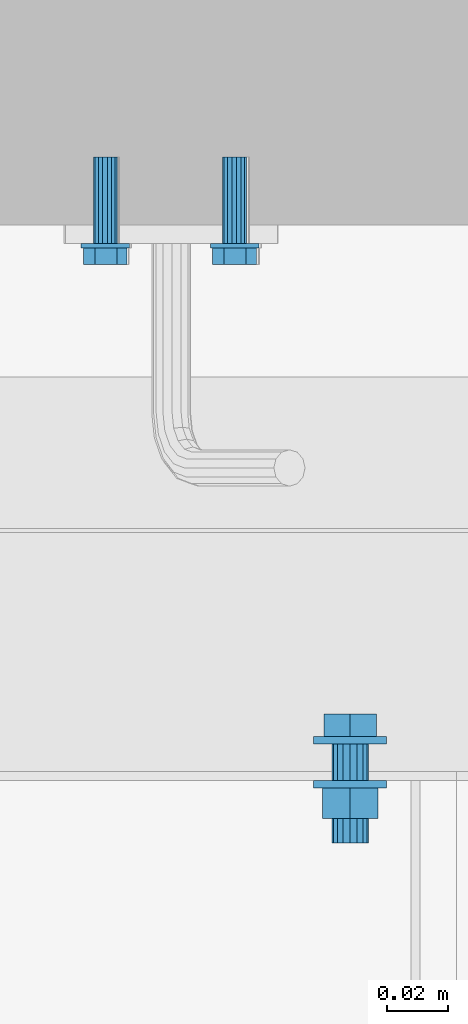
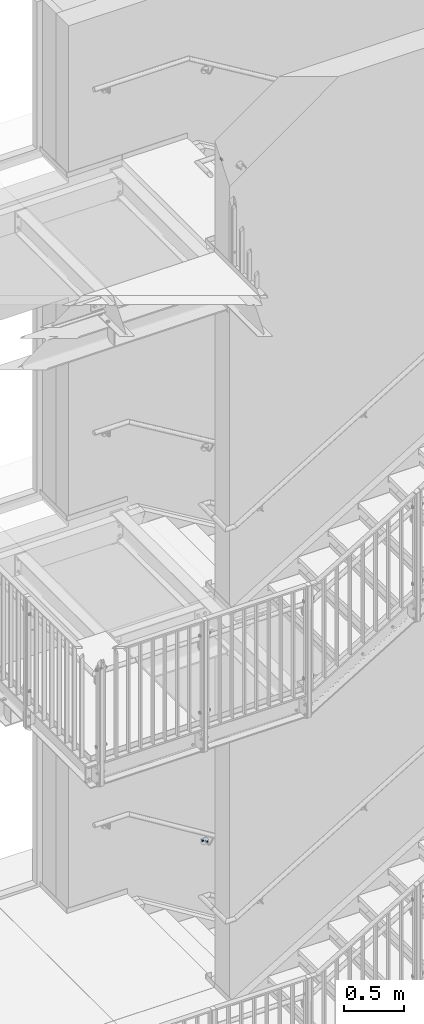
# One storey, part 259 of 410: 2 mechanical fasteners.
"""IFC2X3 building model written with IfcOpenShell, lengths in millimetres."""

from ifc_helpers import new_model, entity, si_unit, converted_unit, origin_with_axes, place, context, project, spatial, faceted_brep, element, save


model = new_model("IFC2X3")

# Units and contexts
model_context = context("Model", 3, precision=1e-09, world=origin_with_axes())
ifc_project = project(units=[si_unit("LENGTHUNIT", "METRE", prefix="MILLI"), si_unit("AREAUNIT", "SQUARE_METRE"), si_unit("VOLUMEUNIT", "CUBIC_METRE"), converted_unit("PLANEANGLEUNIT", "DEGREE", entity("IfcPlaneAngleMeasure", 0.01745329), si_unit("PLANEANGLEUNIT", "RADIAN"), dimensions=[0, 0, 0, 0, 0, 0, 0])], contexts=[model_context])

# Site, building, storey
site_placement = place(None, origin_with_axes())
site = spatial("IfcSite", under=ifc_project, at=site_placement, Name="mKR Teilneubau & Sanierung BA1 - Ostfildern", CompositionType="ELEMENT")
building_placement = place(site_placement, origin_with_axes())
building = spatial("IfcBuilding", under=site, at=building_placement, Name="Struktur 1", CompositionType="ELEMENT")
storey_placement = place(building_placement, origin_with_axes())
storey = spatial("IfcBuildingStorey", under=building, at=storey_placement, Name="Default Storey", CompositionType="ELEMENT", Elevation=0.0)

# Mechanical fasteners
mechanical_fastener_1_placement = place(None, origin_with_axes())
element("IfcMechanicalFastener", 1, at=mechanical_fastener_1_placement, inside=storey, ObjectType="-", NominalDiameter=8.0, NominalLength=30.0, context=model_context, shape_type="Brep", body=[
    faceted_brep([(-914.891471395, 18612.400061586, 224.936654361), (-914.891471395, 18614.000061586, 224.936654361), (-915.579719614, 18614.000061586, 223.527470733), (-915.579719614, 18612.400061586, 223.527470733), (-915.979825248, 18614.000061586, 222.011093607), (-915.979825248, 18612.400061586, 222.011093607), (-916.076412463, 18614.000061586, 220.445796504), (-916.076412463, 18612.400061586, 220.445796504), (-915.865769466, 18614.000061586, 218.891732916), (-915.865769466, 18612.400061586, 218.891732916), (-915.355991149, 18614.000061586, 217.408624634), (-915.355991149, 18612.400061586, 217.408624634), (-914.566668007, 18614.000061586, 216.053466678), (-914.566668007, 18612.400061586, 216.053466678), (-913.528133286, 18614.000061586, 214.878337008), (-913.528133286, 18612.400061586, 214.878337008), (-912.280297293, 18614.000061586, 213.928395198), (-912.280297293, 18612.400061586, 213.928395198), (-910.871113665, 18614.000061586, 213.240146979), (-910.871113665, 18612.400061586, 213.240146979), (-909.354736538, 18614.000061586, 212.840041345), (-909.354736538, 18612.400061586, 212.840041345), (-907.789439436, 18614.000061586, 212.74345413), (-907.789439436, 18612.400061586, 212.74345413), (-906.235375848, 18614.000061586, 212.954097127), (-906.235375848, 18612.400061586, 212.954097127), (-904.752267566, 18614.000061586, 213.463875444), (-904.752267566, 18612.400061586, 213.463875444), (-903.39710961, 18614.000061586, 214.253198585), (-903.39710961, 18612.400061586, 214.253198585), (-902.22197994, 18614.000061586, 215.291733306), (-902.22197994, 18612.400061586, 215.291733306), (-901.27203813, 18614.000061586, 216.5395693), (-901.27203813, 18612.400061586, 216.5395693), (-900.583789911, 18614.000061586, 217.948752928), (-900.583789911, 18612.400061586, 217.948752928), (-900.183684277, 18614.000061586, 219.465130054), (-900.183684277, 18612.400061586, 219.465130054), (-900.087097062, 18614.000061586, 221.030427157), (-900.087097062, 18612.400061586, 221.030427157), (-900.297740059, 18614.000061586, 222.584490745), (-900.297740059, 18612.400061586, 222.584490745), (-900.807518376, 18614.000061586, 224.067599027), (-900.807518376, 18612.400061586, 224.067599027), (-901.596841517, 18614.000061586, 225.422756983), (-901.596841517, 18612.400061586, 225.422756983), (-902.635376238, 18614.000061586, 226.597886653), (-902.635376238, 18612.400061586, 226.597886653), (-903.883212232, 18614.000061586, 227.547828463), (-903.883212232, 18612.400061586, 227.547828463), (-905.29239586, 18614.000061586, 228.236076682), (-905.29239586, 18612.400061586, 228.236076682), (-906.808772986, 18614.000061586, 228.636182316), (-906.808772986, 18612.400061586, 228.636182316), (-908.374070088, 18614.000061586, 228.732769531), (-908.374070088, 18612.400061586, 228.732769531), (-909.928133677, 18614.000061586, 228.522126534), (-909.928133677, 18612.400061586, 228.522126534), (-911.411241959, 18614.000061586, 228.012348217), (-911.411241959, 18612.400061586, 228.012348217), (-912.766399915, 18614.000061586, 227.223025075), (-912.766399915, 18612.400061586, 227.223025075), (-913.941529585, 18614.000061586, 226.184490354), (-913.941529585, 18612.400061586, 226.184490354)], [[[0, 1, 2, 3]], [[3, 2, 4, 5]], [[5, 4, 6, 7]], [[7, 6, 8, 9]], [[9, 8, 10, 11]], [[11, 10, 12, 13]], [[13, 12, 14, 15]], [[15, 14, 16, 17]], [[17, 16, 18, 19]], [[19, 18, 20, 21]], [[21, 20, 22, 23]], [[23, 22, 24, 25]], [[25, 24, 26, 27]], [[27, 26, 28, 29]], [[29, 28, 30, 31]], [[31, 30, 32, 33]], [[33, 32, 34, 35]], [[35, 34, 36, 37]], [[37, 36, 38, 39]], [[39, 38, 40, 41]], [[41, 40, 42, 43]], [[43, 42, 44, 45]], [[45, 44, 46, 47]], [[47, 46, 48, 49]], [[49, 48, 50, 51]], [[51, 50, 52, 53]], [[53, 52, 54, 55]], [[55, 54, 56, 57]], [[57, 56, 58, 59]], [[59, 58, 60, 61]], [[61, 60, 62, 63]], [[63, 62, 1, 0]], [[0, 3, 5, 7, 9, 11, 13, 15, 17, 19, 21, 23, 25, 27, 29, 31, 33, 35, 37, 39, 41, 43, 45, 47, 49, 51, 53, 55, 57, 59, 61, 63]], [[1, 62, 60, 58, 56, 54, 52, 50, 48, 46, 44, 42, 40, 38, 36, 34, 32, 30, 28, 26, 24, 22, 20, 18, 16, 14, 12, 10, 8, 6, 4, 2]]]),
    faceted_brep([(-957.452200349, 18612.400061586, 251.177545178), (-957.452200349, 18614.000061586, 251.177545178), (-958.140448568, 18614.000061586, 249.76836155), (-958.140448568, 18612.400061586, 249.76836155), (-958.540554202, 18614.000061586, 248.251984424), (-958.540554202, 18612.400061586, 248.251984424), (-958.637141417, 18614.000061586, 246.686687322), (-958.637141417, 18612.400061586, 246.686687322), (-958.42649842, 18614.000061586, 245.132623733), (-958.42649842, 18612.400061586, 245.132623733), (-957.916720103, 18614.000061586, 243.649515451), (-957.916720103, 18612.400061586, 243.649515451), (-957.127396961, 18614.000061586, 242.294357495), (-957.127396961, 18612.400061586, 242.294357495), (-956.088862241, 18614.000061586, 241.119227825), (-956.088862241, 18612.400061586, 241.119227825), (-954.841026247, 18614.000061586, 240.169286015), (-954.841026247, 18612.400061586, 240.169286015), (-953.431842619, 18614.000061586, 239.481037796), (-953.431842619, 18612.400061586, 239.481037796), (-951.915465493, 18614.000061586, 239.080932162), (-951.915465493, 18612.400061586, 239.080932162), (-950.35016839, 18614.000061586, 238.984344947), (-950.35016839, 18612.400061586, 238.984344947), (-948.796104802, 18614.000061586, 239.194987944), (-948.796104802, 18612.400061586, 239.194987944), (-947.31299652, 18614.000061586, 239.704766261), (-947.31299652, 18612.400061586, 239.704766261), (-945.957838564, 18614.000061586, 240.494089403), (-945.957838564, 18612.400061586, 240.494089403), (-944.782708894, 18614.000061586, 241.532624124), (-944.782708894, 18612.400061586, 241.532624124), (-943.832767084, 18614.000061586, 242.780460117), (-943.832767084, 18612.400061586, 242.780460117), (-943.144518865, 18614.000061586, 244.189643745), (-943.144518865, 18612.400061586, 244.189643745), (-942.744413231, 18614.000061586, 245.706020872), (-942.744413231, 18612.400061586, 245.706020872), (-942.647826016, 18614.000061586, 247.271317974), (-942.647826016, 18612.400061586, 247.271317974), (-942.858469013, 18614.000061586, 248.825381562), (-942.858469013, 18612.400061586, 248.825381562), (-943.36824733, 18614.000061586, 250.308489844), (-943.36824733, 18612.400061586, 250.308489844), (-944.157570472, 18614.000061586, 251.6636478), (-944.157570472, 18612.400061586, 251.6636478), (-945.196105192, 18614.000061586, 252.83877747), (-945.196105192, 18612.400061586, 252.83877747), (-946.443941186, 18614.000061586, 253.78871928), (-946.443941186, 18612.400061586, 253.78871928), (-947.853124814, 18614.000061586, 254.476967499), (-947.853124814, 18612.400061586, 254.476967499), (-949.36950194, 18614.000061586, 254.877073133), (-949.36950194, 18612.400061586, 254.877073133), (-950.934799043, 18614.000061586, 254.973660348), (-950.934799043, 18612.400061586, 254.973660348), (-952.488862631, 18614.000061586, 254.763017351), (-952.488862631, 18612.400061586, 254.763017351), (-953.971970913, 18614.000061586, 254.253239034), (-953.971970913, 18612.400061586, 254.253239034), (-955.327128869, 18614.000061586, 253.463915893), (-955.327128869, 18612.400061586, 253.463915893), (-956.502258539, 18614.000061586, 252.425381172), (-956.502258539, 18612.400061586, 252.425381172)], [[[0, 1, 2, 3]], [[3, 2, 4, 5]], [[5, 4, 6, 7]], [[7, 6, 8, 9]], [[9, 8, 10, 11]], [[11, 10, 12, 13]], [[13, 12, 14, 15]], [[15, 14, 16, 17]], [[17, 16, 18, 19]], [[19, 18, 20, 21]], [[21, 20, 22, 23]], [[23, 22, 24, 25]], [[25, 24, 26, 27]], [[27, 26, 28, 29]], [[29, 28, 30, 31]], [[31, 30, 32, 33]], [[33, 32, 34, 35]], [[35, 34, 36, 37]], [[37, 36, 38, 39]], [[39, 38, 40, 41]], [[41, 40, 42, 43]], [[43, 42, 44, 45]], [[45, 44, 46, 47]], [[47, 46, 48, 49]], [[49, 48, 50, 51]], [[51, 50, 52, 53]], [[53, 52, 54, 55]], [[55, 54, 56, 57]], [[57, 56, 58, 59]], [[59, 58, 60, 61]], [[61, 60, 62, 63]], [[63, 62, 1, 0]], [[0, 3, 5, 7, 9, 11, 13, 15, 17, 19, 21, 23, 25, 27, 29, 31, 33, 35, 37, 39, 41, 43, 45, 47, 49, 51, 53, 55, 57, 59, 61, 63]], [[1, 62, 60, 58, 56, 54, 52, 50, 48, 46, 44, 42, 40, 38, 36, 34, 32, 30, 28, 26, 24, 22, 20, 18, 16, 14, 12, 10, 8, 6, 4, 2]]]),
    faceted_brep([(-904.66819771, 18612.400061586, 214.410100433), (-904.66819771, 18607.100061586, 214.410100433), (-911.855194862, 18607.100061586, 214.617879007), (-911.855194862, 18612.400061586, 214.617879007), (-915.268751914, 18607.100061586, 220.945890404), (-915.268751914, 18612.400061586, 220.945890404), (-911.495311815, 18607.100061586, 227.066123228), (-911.495311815, 18612.400061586, 227.066123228), (-904.308314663, 18607.100061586, 226.858344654), (-904.308314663, 18612.400061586, 226.858344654), (-900.89475761, 18607.100061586, 220.530333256), (-900.89475761, 18612.400061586, 220.530333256)], [[[0, 1, 2, 3]], [[3, 2, 4, 5]], [[5, 4, 6, 7]], [[7, 6, 8, 9]], [[9, 8, 10, 11]], [[11, 10, 1, 0]], [[4, 2, 1, 10, 8, 6]], [[0, 3, 5, 7, 9, 11]]]),
    faceted_brep([(-947.228926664, 18612.400061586, 240.65099125), (-947.228926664, 18607.100061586, 240.65099125), (-954.415923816, 18607.100061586, 240.858769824), (-954.415923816, 18612.400061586, 240.858769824), (-957.829480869, 18607.100061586, 247.186781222), (-957.829480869, 18612.400061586, 247.186781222), (-954.056040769, 18607.100061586, 253.307014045), (-954.056040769, 18612.400061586, 253.307014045), (-946.869043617, 18607.100061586, 253.099235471), (-946.869043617, 18612.400061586, 253.099235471), (-943.455486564, 18607.100061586, 246.771224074), (-943.455486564, 18612.400061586, 246.771224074)], [[[0, 1, 2, 3]], [[3, 2, 4, 5]], [[5, 4, 6, 7]], [[7, 6, 8, 9]], [[9, 8, 10, 11]], [[11, 10, 1, 0]], [[4, 2, 1, 10, 8, 6]], [[0, 3, 5, 7, 9, 11]]]),
    faceted_brep([(-911.486613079, 18614.000061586, 222.837383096), (-911.486613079, 18624.000061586, 222.837383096), (-912.030790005, 18624.000061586, 221.374602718), (-912.030790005, 18614.000061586, 221.374602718), (-911.973762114, 18624.000061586, 219.814922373), (-911.973762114, 18614.000061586, 219.814922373), (-911.324211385, 18624.000061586, 218.395789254), (-911.324211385, 18614.000061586, 218.395789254), (-910.181026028, 18624.000061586, 217.333253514), (-910.181026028, 18614.000061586, 217.333253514), (-908.71824565, 18624.000061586, 216.789076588), (-908.71824565, 18614.000061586, 216.789076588), (-907.158565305, 18624.000061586, 216.846104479), (-907.158565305, 18614.000061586, 216.846104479), (-905.739432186, 18624.000061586, 217.495655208), (-905.739432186, 18614.000061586, 217.495655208), (-904.676896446, 18624.000061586, 218.638840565), (-904.676896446, 18614.000061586, 218.638840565), (-904.132719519, 18624.000061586, 220.101620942), (-904.132719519, 18614.000061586, 220.101620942), (-904.189747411, 18624.000061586, 221.661301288), (-904.189747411, 18614.000061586, 221.661301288), (-904.83929814, 18624.000061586, 223.080434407), (-904.83929814, 18614.000061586, 223.080434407), (-905.982483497, 18624.000061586, 224.142970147), (-905.982483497, 18614.000061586, 224.142970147), (-907.445263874, 18624.000061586, 224.687147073), (-907.445263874, 18614.000061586, 224.687147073), (-909.004944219, 18624.000061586, 224.630119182), (-909.004944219, 18614.000061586, 224.630119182), (-910.424077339, 18624.000061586, 223.980568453), (-910.424077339, 18614.000061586, 223.980568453)], [[[0, 1, 2, 3]], [[3, 2, 4, 5]], [[5, 4, 6, 7]], [[7, 6, 8, 9]], [[9, 8, 10, 11]], [[11, 10, 12, 13]], [[13, 12, 14, 15]], [[15, 14, 16, 17]], [[17, 16, 18, 19]], [[19, 18, 20, 21]], [[21, 20, 22, 23]], [[23, 22, 24, 25]], [[25, 24, 26, 27]], [[27, 26, 28, 29]], [[29, 28, 30, 31]], [[31, 30, 1, 0]], [[0, 3, 5, 7, 9, 11, 13, 15, 17, 19, 21, 23, 25, 27, 29, 31]], [[1, 30, 28, 26, 24, 22, 20, 18, 16, 14, 12, 10, 8, 6, 4, 2]]]),
    faceted_brep([(-954.047342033, 18614.000061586, 249.078273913), (-954.047342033, 18624.000061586, 249.078273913), (-954.591518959, 18624.000061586, 247.615493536), (-954.591518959, 18614.000061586, 247.615493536), (-954.534491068, 18624.000061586, 246.055813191), (-954.534491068, 18614.000061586, 246.055813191), (-953.884940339, 18624.000061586, 244.636680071), (-953.884940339, 18614.000061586, 244.636680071), (-952.741754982, 18624.000061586, 243.574144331), (-952.741754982, 18614.000061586, 243.574144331), (-951.278974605, 18624.000061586, 243.029967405), (-951.278974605, 18614.000061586, 243.029967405), (-949.719294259, 18624.000061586, 243.086995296), (-949.719294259, 18614.000061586, 243.086995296), (-948.30016114, 18624.000061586, 243.736546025), (-948.30016114, 18614.000061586, 243.736546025), (-947.2376254, 18624.000061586, 244.879731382), (-947.2376254, 18614.000061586, 244.879731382), (-946.693448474, 18624.000061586, 246.34251176), (-946.693448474, 18614.000061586, 246.34251176), (-946.750476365, 18624.000061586, 247.902192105), (-946.750476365, 18614.000061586, 247.902192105), (-947.400027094, 18624.000061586, 249.321325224), (-947.400027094, 18614.000061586, 249.321325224), (-948.543212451, 18624.000061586, 250.383860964), (-948.543212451, 18614.000061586, 250.383860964), (-950.005992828, 18624.000061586, 250.928037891), (-950.005992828, 18614.000061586, 250.928037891), (-951.565673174, 18624.000061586, 250.871009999), (-951.565673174, 18614.000061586, 250.871009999), (-952.984806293, 18624.000061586, 250.22145927), (-952.984806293, 18614.000061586, 250.22145927)], [[[0, 1, 2, 3]], [[3, 2, 4, 5]], [[5, 4, 6, 7]], [[7, 6, 8, 9]], [[9, 8, 10, 11]], [[11, 10, 12, 13]], [[13, 12, 14, 15]], [[15, 14, 16, 17]], [[17, 16, 18, 19]], [[19, 18, 20, 21]], [[21, 20, 22, 23]], [[23, 22, 24, 25]], [[25, 24, 26, 27]], [[27, 26, 28, 29]], [[29, 28, 30, 31]], [[31, 30, 1, 0]], [[0, 3, 5, 7, 9, 11, 13, 15, 17, 19, 21, 23, 25, 27, 29, 31]], [[1, 30, 28, 26, 24, 22, 20, 18, 16, 14, 12, 10, 8, 6, 4, 2]]]),
    faceted_brep([(-911.486613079, 18624.000061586, 222.837383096), (-911.486613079, 18642.400061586, 222.837383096), (-912.030790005, 18642.400061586, 221.374602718), (-912.030790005, 18624.000061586, 221.374602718), (-911.973762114, 18642.400061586, 219.814922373), (-911.973762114, 18624.000061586, 219.814922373), (-911.324211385, 18642.400061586, 218.395789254), (-911.324211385, 18624.000061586, 218.395789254), (-910.181026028, 18642.400061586, 217.333253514), (-910.181026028, 18624.000061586, 217.333253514), (-908.71824565, 18642.400061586, 216.789076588), (-908.71824565, 18624.000061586, 216.789076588), (-907.158565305, 18642.400061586, 216.846104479), (-907.158565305, 18624.000061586, 216.846104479), (-905.739432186, 18642.400061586, 217.495655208), (-905.739432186, 18624.000061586, 217.495655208), (-904.676896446, 18642.400061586, 218.638840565), (-904.676896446, 18624.000061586, 218.638840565), (-904.132719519, 18642.400061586, 220.101620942), (-904.132719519, 18624.000061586, 220.101620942), (-904.189747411, 18642.400061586, 221.661301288), (-904.189747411, 18624.000061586, 221.661301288), (-904.83929814, 18642.400061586, 223.080434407), (-904.83929814, 18624.000061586, 223.080434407), (-905.982483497, 18642.400061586, 224.142970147), (-905.982483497, 18624.000061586, 224.142970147), (-907.445263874, 18642.400061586, 224.687147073), (-907.445263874, 18624.000061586, 224.687147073), (-909.004944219, 18642.400061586, 224.630119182), (-909.004944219, 18624.000061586, 224.630119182), (-910.424077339, 18642.400061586, 223.980568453), (-910.424077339, 18624.000061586, 223.980568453)], [[[0, 1, 2, 3]], [[3, 2, 4, 5]], [[5, 4, 6, 7]], [[7, 6, 8, 9]], [[9, 8, 10, 11]], [[11, 10, 12, 13]], [[13, 12, 14, 15]], [[15, 14, 16, 17]], [[17, 16, 18, 19]], [[19, 18, 20, 21]], [[21, 20, 22, 23]], [[23, 22, 24, 25]], [[25, 24, 26, 27]], [[27, 26, 28, 29]], [[29, 28, 30, 31]], [[31, 30, 1, 0]], [[0, 3, 5, 7, 9, 11, 13, 15, 17, 19, 21, 23, 25, 27, 29, 31]], [[1, 30, 28, 26, 24, 22, 20, 18, 16, 14, 12, 10, 8, 6, 4, 2]]]),
    faceted_brep([(-954.047342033, 18624.000061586, 249.078273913), (-954.047342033, 18642.400061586, 249.078273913), (-954.591518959, 18642.400061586, 247.615493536), (-954.591518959, 18624.000061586, 247.615493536), (-954.534491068, 18642.400061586, 246.055813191), (-954.534491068, 18624.000061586, 246.055813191), (-953.884940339, 18642.400061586, 244.636680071), (-953.884940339, 18624.000061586, 244.636680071), (-952.741754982, 18642.400061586, 243.574144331), (-952.741754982, 18624.000061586, 243.574144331), (-951.278974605, 18642.400061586, 243.029967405), (-951.278974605, 18624.000061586, 243.029967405), (-949.719294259, 18642.400061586, 243.086995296), (-949.719294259, 18624.000061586, 243.086995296), (-948.30016114, 18642.400061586, 243.736546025), (-948.30016114, 18624.000061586, 243.736546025), (-947.2376254, 18642.400061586, 244.879731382), (-947.2376254, 18624.000061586, 244.879731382), (-946.693448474, 18642.400061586, 246.34251176), (-946.693448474, 18624.000061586, 246.34251176), (-946.750476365, 18642.400061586, 247.902192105), (-946.750476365, 18624.000061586, 247.902192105), (-947.400027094, 18642.400061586, 249.321325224), (-947.400027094, 18624.000061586, 249.321325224), (-948.543212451, 18642.400061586, 250.383860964), (-948.543212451, 18624.000061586, 250.383860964), (-950.005992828, 18642.400061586, 250.928037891), (-950.005992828, 18624.000061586, 250.928037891), (-951.565673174, 18642.400061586, 250.871009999), (-951.565673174, 18624.000061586, 250.871009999), (-952.984806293, 18642.400061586, 250.22145927), (-952.984806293, 18624.000061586, 250.22145927)], [[[0, 1, 2, 3]], [[3, 2, 4, 5]], [[5, 4, 6, 7]], [[7, 6, 8, 9]], [[9, 8, 10, 11]], [[11, 10, 12, 13]], [[13, 12, 14, 15]], [[15, 14, 16, 17]], [[17, 16, 18, 19]], [[19, 18, 20, 21]], [[21, 20, 22, 23]], [[23, 22, 24, 25]], [[25, 24, 26, 27]], [[27, 26, 28, 29]], [[29, 28, 30, 31]], [[31, 30, 1, 0]], [[0, 3, 5, 7, 9, 11, 13, 15, 17, 19, 21, 23, 25, 27, 29, 31]], [[1, 30, 28, 26, 24, 22, 20, 18, 16, 14, 12, 10, 8, 6, 4, 2]]]),
])
mechanical_fastener_2_placement = place(None, origin_with_axes())
element("IfcMechanicalFastener", 2, at=mechanical_fastener_2_placement, inside=storey, ObjectType="Bolt", NominalDiameter=12.0, NominalLength=35.0, context=model_context, shape_type="Brep", body=[
    faceted_brep([(-858.0, 18451.499999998, 7270.0), (-858.0, 18448.999999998, 7270.0), (-858.230576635, 18448.999999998, 7267.658916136), (-858.230576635, 18451.499999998, 7267.658916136), (-858.91344561, 18448.999999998, 7265.407798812), (-858.91344561, 18451.499999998, 7265.407798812), (-860.022364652, 18448.999999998, 7263.333157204), (-860.022364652, 18451.499999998, 7263.333157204), (-861.514718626, 18448.999999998, 7261.514718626), (-861.514718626, 18451.499999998, 7261.514718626), (-863.333157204, 18448.999999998, 7260.022364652), (-863.333157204, 18451.499999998, 7260.022364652), (-865.407798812, 18448.999999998, 7258.91344561), (-865.407798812, 18451.499999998, 7258.91344561), (-867.658916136, 18448.999999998, 7258.230576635), (-867.658916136, 18451.499999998, 7258.230576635), (-870.0, 18448.999999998, 7258.0), (-870.0, 18451.499999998, 7258.0), (-872.341083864, 18448.999999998, 7258.230576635), (-872.341083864, 18451.499999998, 7258.230576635), (-874.592201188, 18448.999999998, 7258.91344561), (-874.592201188, 18451.499999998, 7258.91344561), (-876.666842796, 18448.999999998, 7260.022364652), (-876.666842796, 18451.499999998, 7260.022364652), (-878.485281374, 18448.999999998, 7261.514718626), (-878.485281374, 18451.499999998, 7261.514718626), (-879.977635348, 18448.999999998, 7263.333157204), (-879.977635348, 18451.499999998, 7263.333157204), (-881.08655439, 18448.999999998, 7265.407798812), (-881.08655439, 18451.499999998, 7265.407798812), (-881.769423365, 18448.999999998, 7267.658916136), (-881.769423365, 18451.499999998, 7267.658916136), (-882.0, 18448.999999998, 7270.0), (-882.0, 18451.499999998, 7270.0), (-881.769423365, 18448.999999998, 7272.341083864), (-881.769423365, 18451.499999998, 7272.341083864), (-881.08655439, 18448.999999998, 7274.592201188), (-881.08655439, 18451.499999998, 7274.592201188), (-879.977635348, 18448.999999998, 7276.666842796), (-879.977635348, 18451.499999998, 7276.666842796), (-878.485281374, 18448.999999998, 7278.485281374), (-878.485281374, 18451.499999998, 7278.485281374), (-876.666842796, 18448.999999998, 7279.977635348), (-876.666842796, 18451.499999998, 7279.977635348), (-874.592201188, 18448.999999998, 7281.08655439), (-874.592201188, 18451.499999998, 7281.08655439), (-872.341083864, 18448.999999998, 7281.769423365), (-872.341083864, 18451.499999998, 7281.769423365), (-870.0, 18448.999999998, 7282.0), (-870.0, 18451.499999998, 7282.0), (-867.658916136, 18448.999999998, 7281.769423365), (-867.658916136, 18451.499999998, 7281.769423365), (-865.407798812, 18448.999999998, 7281.08655439), (-865.407798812, 18451.499999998, 7281.08655439), (-863.333157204, 18448.999999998, 7279.977635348), (-863.333157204, 18451.499999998, 7279.977635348), (-861.514718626, 18448.999999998, 7278.485281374), (-861.514718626, 18451.499999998, 7278.485281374), (-860.022364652, 18448.999999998, 7276.666842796), (-860.022364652, 18451.499999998, 7276.666842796), (-858.91344561, 18448.999999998, 7274.592201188), (-858.91344561, 18451.499999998, 7274.592201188), (-858.230576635, 18448.999999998, 7272.341083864), (-858.230576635, 18451.499999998, 7272.341083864)], [[[0, 1, 2, 3]], [[3, 2, 4, 5]], [[5, 4, 6, 7]], [[7, 6, 8, 9]], [[9, 8, 10, 11]], [[11, 10, 12, 13]], [[13, 12, 14, 15]], [[15, 14, 16, 17]], [[17, 16, 18, 19]], [[19, 18, 20, 21]], [[21, 20, 22, 23]], [[23, 22, 24, 25]], [[25, 24, 26, 27]], [[27, 26, 28, 29]], [[29, 28, 30, 31]], [[31, 30, 32, 33]], [[33, 32, 34, 35]], [[35, 34, 36, 37]], [[37, 36, 38, 39]], [[39, 38, 40, 41]], [[41, 40, 42, 43]], [[43, 42, 44, 45]], [[45, 44, 46, 47]], [[47, 46, 48, 49]], [[49, 48, 50, 51]], [[51, 50, 52, 53]], [[53, 52, 54, 55]], [[55, 54, 56, 57]], [[57, 56, 58, 59]], [[59, 58, 60, 61]], [[61, 60, 62, 63]], [[63, 62, 1, 0]], [[0, 3, 5, 7, 9, 11, 13, 15, 17, 19, 21, 23, 25, 27, 29, 31, 33, 35, 37, 39, 41, 43, 45, 47, 49, 51, 53, 55, 57, 59, 61, 63]], [[1, 62, 60, 58, 56, 54, 52, 50, 48, 46, 44, 42, 40, 38, 36, 34, 32, 30, 28, 26, 24, 22, 20, 18, 16, 14, 12, 10, 8, 6, 4, 2]]]),
    faceted_brep([(-878.673244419, 18451.499999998, 7264.9925), (-878.673244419, 18458.999999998, 7264.9925), (-870.0, 18458.999999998, 7259.985), (-870.0, 18451.499999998, 7259.985), (-861.326755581, 18458.999999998, 7264.9925), (-861.326755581, 18451.499999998, 7264.9925), (-861.326755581, 18458.999999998, 7275.0075), (-861.326755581, 18451.499999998, 7275.0075), (-870.0, 18458.999999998, 7280.015), (-870.0, 18451.499999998, 7280.015), (-878.673244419, 18458.999999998, 7275.0075), (-878.673244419, 18451.499999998, 7275.0075)], [[[0, 1, 2, 3]], [[3, 2, 4, 5]], [[5, 4, 6, 7]], [[7, 6, 8, 9]], [[9, 8, 10, 11]], [[11, 10, 1, 0]], [[4, 2, 1, 10, 8, 6]], [[0, 3, 5, 7, 9, 11]]]),
    faceted_brep([(-864.0, 18448.999999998, 7270.0), (-864.0, 18436.999999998, 7270.0), (-864.456722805, 18436.999999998, 7267.703899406), (-864.456722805, 18448.999999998, 7267.703899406), (-865.757359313, 18436.999999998, 7265.757359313), (-865.757359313, 18448.999999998, 7265.757359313), (-867.703899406, 18436.999999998, 7264.456722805), (-867.703899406, 18448.999999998, 7264.456722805), (-870.0, 18436.999999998, 7264.0), (-870.0, 18448.999999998, 7264.0), (-872.296100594, 18436.999999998, 7264.456722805), (-872.296100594, 18448.999999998, 7264.456722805), (-874.242640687, 18436.999999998, 7265.757359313), (-874.242640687, 18448.999999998, 7265.757359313), (-875.543277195, 18436.999999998, 7267.703899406), (-875.543277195, 18448.999999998, 7267.703899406), (-876.0, 18436.999999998, 7270.0), (-876.0, 18448.999999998, 7270.0), (-875.543277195, 18436.999999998, 7272.296100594), (-875.543277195, 18448.999999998, 7272.296100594), (-874.242640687, 18436.999999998, 7274.242640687), (-874.242640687, 18448.999999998, 7274.242640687), (-872.296100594, 18436.999999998, 7275.543277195), (-872.296100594, 18448.999999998, 7275.543277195), (-870.0, 18436.999999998, 7276.0), (-870.0, 18448.999999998, 7276.0), (-867.703899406, 18436.999999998, 7275.543277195), (-867.703899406, 18448.999999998, 7275.543277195), (-865.757359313, 18436.999999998, 7274.242640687), (-865.757359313, 18448.999999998, 7274.242640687), (-864.456722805, 18436.999999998, 7272.296100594), (-864.456722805, 18448.999999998, 7272.296100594)], [[[0, 1, 2, 3]], [[3, 2, 4, 5]], [[5, 4, 6, 7]], [[7, 6, 8, 9]], [[9, 8, 10, 11]], [[11, 10, 12, 13]], [[13, 12, 14, 15]], [[15, 14, 16, 17]], [[17, 16, 18, 19]], [[19, 18, 20, 21]], [[21, 20, 22, 23]], [[23, 22, 24, 25]], [[25, 24, 26, 27]], [[27, 26, 28, 29]], [[29, 28, 30, 31]], [[31, 30, 1, 0]], [[0, 3, 5, 7, 9, 11, 13, 15, 17, 19, 21, 23, 25, 27, 29, 31]], [[1, 30, 28, 26, 24, 22, 20, 18, 16, 14, 12, 10, 8, 6, 4, 2]]]),
    faceted_brep([(-858.0, 18436.999999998, 7270.0), (-858.0, 18434.499999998, 7270.0), (-858.230576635, 18434.499999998, 7267.658916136), (-858.230576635, 18436.999999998, 7267.658916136), (-858.91344561, 18434.499999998, 7265.407798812), (-858.91344561, 18436.999999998, 7265.407798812), (-860.022364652, 18434.499999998, 7263.333157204), (-860.022364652, 18436.999999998, 7263.333157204), (-861.514718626, 18434.499999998, 7261.514718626), (-861.514718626, 18436.999999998, 7261.514718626), (-863.333157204, 18434.499999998, 7260.022364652), (-863.333157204, 18436.999999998, 7260.022364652), (-865.407798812, 18434.499999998, 7258.91344561), (-865.407798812, 18436.999999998, 7258.91344561), (-867.658916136, 18434.499999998, 7258.230576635), (-867.658916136, 18436.999999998, 7258.230576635), (-870.0, 18434.499999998, 7258.0), (-870.0, 18436.999999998, 7258.0), (-872.341083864, 18434.499999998, 7258.230576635), (-872.341083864, 18436.999999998, 7258.230576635), (-874.592201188, 18434.499999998, 7258.91344561), (-874.592201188, 18436.999999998, 7258.91344561), (-876.666842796, 18434.499999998, 7260.022364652), (-876.666842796, 18436.999999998, 7260.022364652), (-878.485281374, 18434.499999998, 7261.514718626), (-878.485281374, 18436.999999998, 7261.514718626), (-879.977635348, 18434.499999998, 7263.333157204), (-879.977635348, 18436.999999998, 7263.333157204), (-881.08655439, 18434.499999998, 7265.407798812), (-881.08655439, 18436.999999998, 7265.407798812), (-881.769423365, 18434.499999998, 7267.658916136), (-881.769423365, 18436.999999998, 7267.658916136), (-882.0, 18434.499999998, 7270.0), (-882.0, 18436.999999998, 7270.0), (-881.769423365, 18434.499999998, 7272.341083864), (-881.769423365, 18436.999999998, 7272.341083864), (-881.08655439, 18434.499999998, 7274.592201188), (-881.08655439, 18436.999999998, 7274.592201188), (-879.977635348, 18434.499999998, 7276.666842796), (-879.977635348, 18436.999999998, 7276.666842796), (-878.485281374, 18434.499999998, 7278.485281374), (-878.485281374, 18436.999999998, 7278.485281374), (-876.666842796, 18434.499999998, 7279.977635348), (-876.666842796, 18436.999999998, 7279.977635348), (-874.592201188, 18434.499999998, 7281.08655439), (-874.592201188, 18436.999999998, 7281.08655439), (-872.341083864, 18434.499999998, 7281.769423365), (-872.341083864, 18436.999999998, 7281.769423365), (-870.0, 18434.499999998, 7282.0), (-870.0, 18436.999999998, 7282.0), (-867.658916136, 18434.499999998, 7281.769423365), (-867.658916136, 18436.999999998, 7281.769423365), (-865.407798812, 18434.499999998, 7281.08655439), (-865.407798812, 18436.999999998, 7281.08655439), (-863.333157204, 18434.499999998, 7279.977635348), (-863.333157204, 18436.999999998, 7279.977635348), (-861.514718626, 18434.499999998, 7278.485281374), (-861.514718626, 18436.999999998, 7278.485281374), (-860.022364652, 18434.499999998, 7276.666842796), (-860.022364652, 18436.999999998, 7276.666842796), (-858.91344561, 18434.499999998, 7274.592201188), (-858.91344561, 18436.999999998, 7274.592201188), (-858.230576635, 18434.499999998, 7272.341083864), (-858.230576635, 18436.999999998, 7272.341083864)], [[[0, 1, 2, 3]], [[3, 2, 4, 5]], [[5, 4, 6, 7]], [[7, 6, 8, 9]], [[9, 8, 10, 11]], [[11, 10, 12, 13]], [[13, 12, 14, 15]], [[15, 14, 16, 17]], [[17, 16, 18, 19]], [[19, 18, 20, 21]], [[21, 20, 22, 23]], [[23, 22, 24, 25]], [[25, 24, 26, 27]], [[27, 26, 28, 29]], [[29, 28, 30, 31]], [[31, 30, 32, 33]], [[33, 32, 34, 35]], [[35, 34, 36, 37]], [[37, 36, 38, 39]], [[39, 38, 40, 41]], [[41, 40, 42, 43]], [[43, 42, 44, 45]], [[45, 44, 46, 47]], [[47, 46, 48, 49]], [[49, 48, 50, 51]], [[51, 50, 52, 53]], [[53, 52, 54, 55]], [[55, 54, 56, 57]], [[57, 56, 58, 59]], [[59, 58, 60, 61]], [[61, 60, 62, 63]], [[63, 62, 1, 0]], [[0, 3, 5, 7, 9, 11, 13, 15, 17, 19, 21, 23, 25, 27, 29, 31, 33, 35, 37, 39, 41, 43, 45, 47, 49, 51, 53, 55, 57, 59, 61, 63]], [[1, 62, 60, 58, 56, 54, 52, 50, 48, 46, 44, 42, 40, 38, 36, 34, 32, 30, 28, 26, 24, 22, 20, 18, 16, 14, 12, 10, 8, 6, 4, 2]]]),
    faceted_brep([(-879.13656801, 18424.499999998, 7264.725), (-879.13656801, 18434.499999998, 7264.725), (-870.0, 18434.499999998, 7259.45), (-870.0, 18424.499999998, 7259.45), (-860.86343199, 18434.499999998, 7264.725), (-860.86343199, 18424.499999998, 7264.725), (-860.86343199, 18434.499999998, 7275.275), (-860.86343199, 18424.499999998, 7275.275), (-870.0, 18434.499999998, 7280.55), (-870.0, 18424.499999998, 7280.55), (-879.13656801, 18434.499999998, 7275.275), (-879.13656801, 18424.499999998, 7275.275)], [[[0, 1, 2, 3]], [[3, 2, 4, 5]], [[5, 4, 6, 7]], [[7, 6, 8, 9]], [[9, 8, 10, 11]], [[11, 10, 1, 0]], [[4, 2, 1, 10, 8, 6]], [[0, 3, 5, 7, 9, 11]]]),
    faceted_brep([(-864.0, 18424.499999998, 7270.0), (-864.0, 18416.499999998, 7270.0), (-864.456722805, 18416.499999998, 7267.703899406), (-864.456722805, 18424.499999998, 7267.703899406), (-865.757359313, 18416.499999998, 7265.757359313), (-865.757359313, 18424.499999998, 7265.757359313), (-867.703899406, 18416.499999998, 7264.456722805), (-867.703899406, 18424.499999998, 7264.456722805), (-870.0, 18416.499999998, 7264.0), (-870.0, 18424.499999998, 7264.0), (-872.296100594, 18416.499999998, 7264.456722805), (-872.296100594, 18424.499999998, 7264.456722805), (-874.242640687, 18416.499999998, 7265.757359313), (-874.242640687, 18424.499999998, 7265.757359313), (-875.543277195, 18416.499999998, 7267.703899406), (-875.543277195, 18424.499999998, 7267.703899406), (-876.0, 18416.499999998, 7270.0), (-876.0, 18424.499999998, 7270.0), (-875.543277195, 18416.499999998, 7272.296100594), (-875.543277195, 18424.499999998, 7272.296100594), (-874.242640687, 18416.499999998, 7274.242640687), (-874.242640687, 18424.499999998, 7274.242640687), (-872.296100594, 18416.499999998, 7275.543277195), (-872.296100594, 18424.499999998, 7275.543277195), (-870.0, 18416.499999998, 7276.0), (-870.0, 18424.499999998, 7276.0), (-867.703899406, 18416.499999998, 7275.543277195), (-867.703899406, 18424.499999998, 7275.543277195), (-865.757359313, 18416.499999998, 7274.242640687), (-865.757359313, 18424.499999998, 7274.242640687), (-864.456722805, 18416.499999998, 7272.296100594), (-864.456722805, 18424.499999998, 7272.296100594)], [[[0, 1, 2, 3]], [[3, 2, 4, 5]], [[5, 4, 6, 7]], [[7, 6, 8, 9]], [[9, 8, 10, 11]], [[11, 10, 12, 13]], [[13, 12, 14, 15]], [[15, 14, 16, 17]], [[17, 16, 18, 19]], [[19, 18, 20, 21]], [[21, 20, 22, 23]], [[23, 22, 24, 25]], [[25, 24, 26, 27]], [[27, 26, 28, 29]], [[29, 28, 30, 31]], [[31, 30, 1, 0]], [[0, 3, 5, 7, 9, 11, 13, 15, 17, 19, 21, 23, 25, 27, 29, 31]], [[1, 30, 28, 26, 24, 22, 20, 18, 16, 14, 12, 10, 8, 6, 4, 2]]]),
])

save(model, "model.ifc")
